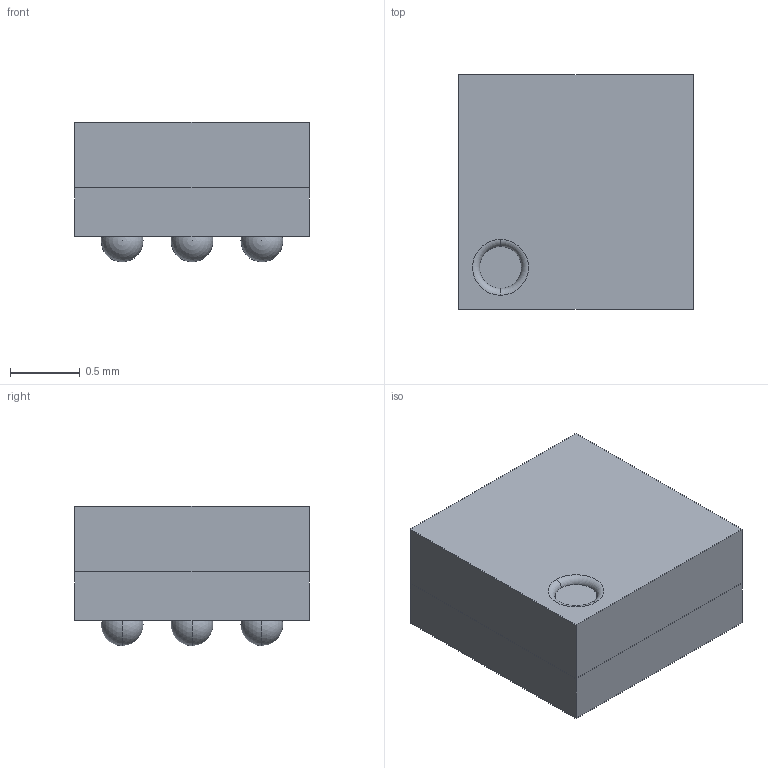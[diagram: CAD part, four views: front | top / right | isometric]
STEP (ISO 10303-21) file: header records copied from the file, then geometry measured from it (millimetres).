
FILE_DESCRIPTION (( 'STEP AP214' ), '1' );
FILE_NAME ( 'BGA9CP50A3X3_168X168X100B30.STEP', '2021-10-06T06:48:58', ( '' ), ( '' ), '', '©2017 PCB Libraries, Inc.', '' );
FILE_SCHEMA (( 'AUTOMOTIVE_DESIGN' ));
Length unit declared in the file: millimetre
Products named in the file (1): BGA9CP50A3X3_168X168X100B30
Bounding box: 1.68 x 1.68 x 1 mm (x, y, z)
Volume: 2.4 mm3; surface area: 19.4 mm2
Topology: 11 solids, 11 shells, 33 faces, 93 edges, 65 vertices
Faces by surface type: sphere 18, plane 13, torus 2
Entity records: 968 total; most frequent: DIRECTION 140, CARTESIAN_POINT 120, ORIENTED_EDGE 96, AXIS2_PLACEMENT_3D 58, EDGE_CURVE 48, STYLED_ITEM 45, PRESENTATION_LAYER_ASSIGNMENT 45, MECHANICAL_DESIGN_GEOMETRIC_PRESENTATION_REPRESENTATION 45
